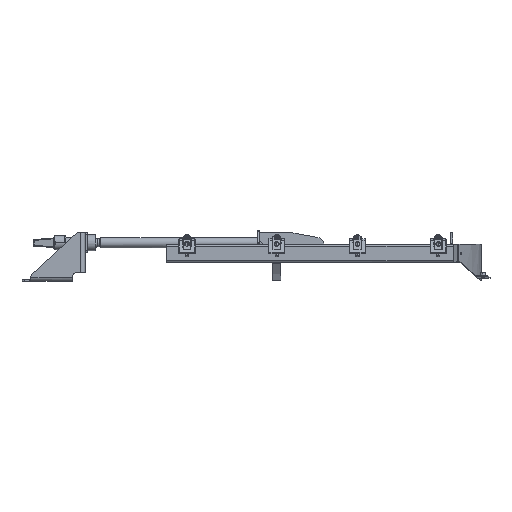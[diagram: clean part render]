
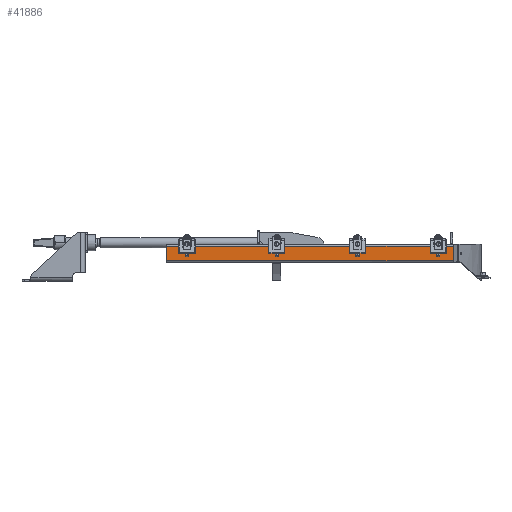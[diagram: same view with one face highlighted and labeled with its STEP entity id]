
A CAD part, left-side view. The second image highlights one B-rep face of the part: STEP entity #41886.
In plain terms, the highlighted planar face has unit normal (-1, 0, 0).
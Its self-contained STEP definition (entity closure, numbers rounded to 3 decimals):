
#3358 = VECTOR ( 'NONE', #30348, 1000. ) ;
#3800 = DIRECTION ( 'NONE',  ( 0., 0., 1. ) ) ;
#4304 = LINE ( 'NONE', #55177, #25310 ) ;
#5586 = CARTESIAN_POINT ( 'NONE',  ( -240.01, 56.269, 4. ) ) ;
#5800 = VECTOR ( 'NONE', #59585, 1000. ) ;
#6786 = VECTOR ( 'NONE', #3800, 1000. ) ;
#8025 = VERTEX_POINT ( 'NONE', #36080 ) ;
#9149 = ORIENTED_EDGE ( 'NONE', *, *, #17755, .F. ) ;
#11571 = CARTESIAN_POINT ( 'NONE',  ( -240.01, -35.133, 40. ) ) ;
#13147 = ORIENTED_EDGE ( 'NONE', *, *, #29829, .F. ) ;
#13906 = EDGE_CURVE ( 'NONE', #67002, #62050, #4304, .T. ) ;
#16395 = DIRECTION ( 'NONE',  ( -1., 0., 0. ) ) ;
#17755 = EDGE_CURVE ( 'NONE', #8025, #61013, #36974, .T. ) ;
#18979 = LINE ( 'NONE', #19942, #5800 ) ;
#19942 = CARTESIAN_POINT ( 'NONE',  ( -240.01, -35.133, 4. ) ) ;
#21436 = AXIS2_PLACEMENT_3D ( 'NONE', #11571, #16395, #26916 ) ;
#22689 = ORIENTED_EDGE ( 'NONE', *, *, #36160, .T. ) ;
#25310 = VECTOR ( 'NONE', #40320, 1000. ) ;
#26916 = DIRECTION ( 'NONE',  ( 0., 0., 1. ) ) ;
#29829 = EDGE_CURVE ( 'NONE', #67002, #8025, #18979, .T. ) ;
#30348 = DIRECTION ( 'NONE',  ( 0., 1., 0. ) ) ;
#34727 = CARTESIAN_POINT ( 'NONE',  ( -240.01, 764.647, 40. ) ) ;
#36080 = CARTESIAN_POINT ( 'NONE',  ( -240.01, 764.647, 4. ) ) ;
#36160 = EDGE_CURVE ( 'NONE', #62050, #61013, #43973, .T. ) ;
#36768 = FACE_OUTER_BOUND ( 'NONE', #61546, .T. ) ;
#36974 = LINE ( 'NONE', #34727, #6786 ) ;
#37467 = CARTESIAN_POINT ( 'NONE',  ( -240.01, 764.647, 40. ) ) ;
#40320 = DIRECTION ( 'NONE',  ( 0., 0., 1. ) ) ;
#41886 = ADVANCED_FACE ( 'NONE', ( #36768 ), #47556, .T. ) ;
#42316 = CARTESIAN_POINT ( 'NONE',  ( -240.01, 56.269, 40. ) ) ;
#43973 = LINE ( 'NONE', #64620, #3358 ) ;
#47556 = PLANE ( 'NONE',  #21436 ) ;
#55177 = CARTESIAN_POINT ( 'NONE',  ( -240.01, 56.269, 0. ) ) ;
#55413 = ORIENTED_EDGE ( 'NONE', *, *, #13906, .T. ) ;
#59585 = DIRECTION ( 'NONE',  ( 0., 1., 0. ) ) ;
#61013 = VERTEX_POINT ( 'NONE', #37467 ) ;
#61546 = EDGE_LOOP ( 'NONE', ( #13147, #55413, #22689, #9149 ) ) ;
#62050 = VERTEX_POINT ( 'NONE', #42316 ) ;
#64620 = CARTESIAN_POINT ( 'NONE',  ( -240.01, -35.133, 40. ) ) ;
#67002 = VERTEX_POINT ( 'NONE', #5586 ) ;
